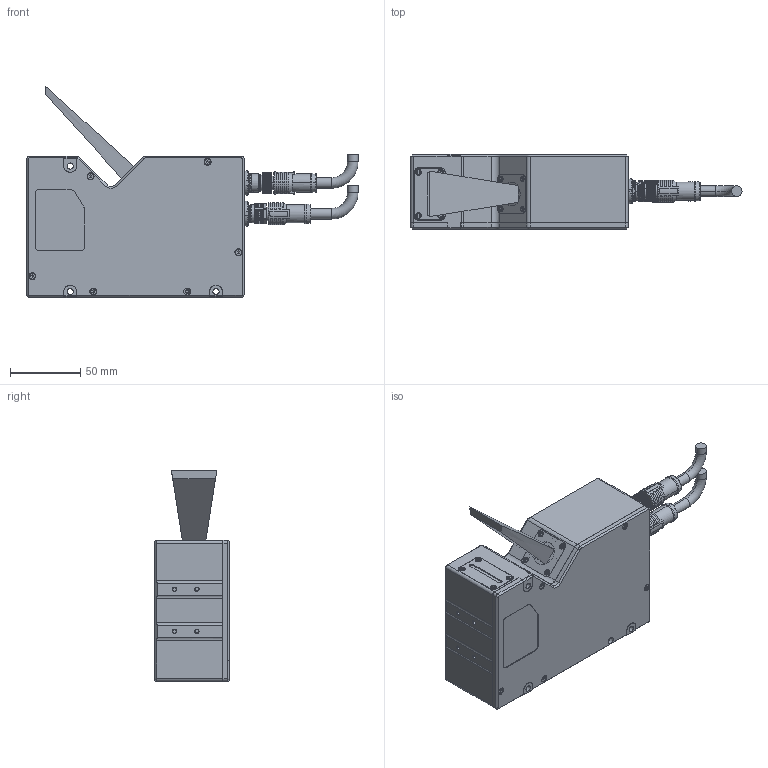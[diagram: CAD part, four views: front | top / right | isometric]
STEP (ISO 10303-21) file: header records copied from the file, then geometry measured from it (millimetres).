
FILE_DESCRIPTION((''),'2;1');
FILE_NAME('PRT0011','2026-05-23T11:01:02',('wangjiayi28'),(''),'CREO PARAMETRIC BY PTC INC, 2020044','CREO PARAMETRIC BY PTC INC, 2020044','');
FILE_SCHEMA(('AUTOMOTIVE_DESIGN { 1 0 10303 214 1 1 1 1 }'));
Products named in the file (1): PRT0011
Bounding box: 236.75 x 53.5 x 151 mm (x, y, z)
Volume: 3672.3 mm3; surface area: 79622.4 mm2
Topology: 2 solids, 62 shells, 1852 faces, 5423 edges, 3604 vertices
Faces by surface type: plane 965, cylinder 556, cone 152, bspline 103, torus 74, extrusion 2
Entity records: 102869 total; most frequent: CARTESIAN_POINT 55542, ORIENTED_EDGE 9788, DIRECTION 9363, EDGE_CURVE 5407, VERTEX_POINT 3604, AXIS2_PLACEMENT_3D 3418, VECTOR 2527, LINE 2525
